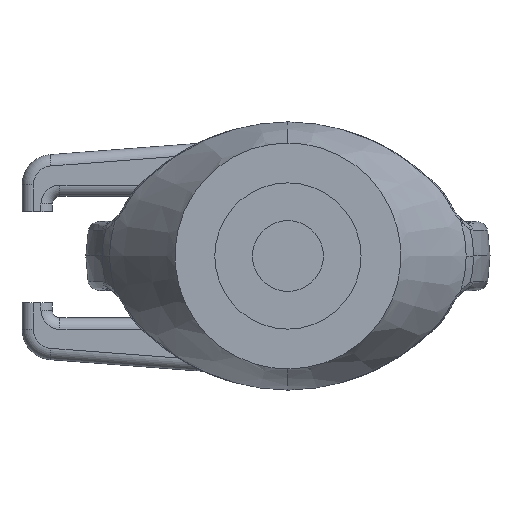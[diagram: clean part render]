
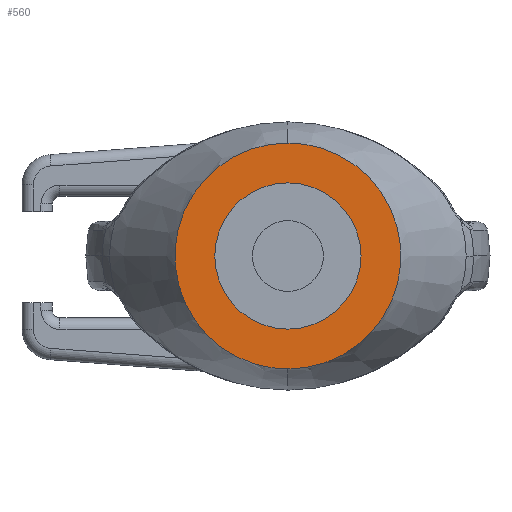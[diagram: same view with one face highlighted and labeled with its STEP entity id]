
A CAD part, front view. The second image highlights one B-rep face of the part: STEP entity #560.
In plain terms, the highlighted planar face has unit normal (0, -1, 0).
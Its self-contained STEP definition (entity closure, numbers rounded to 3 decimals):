
#560=ADVANCED_FACE('',(#1482,#1483),#1484,.F.);
#1482=FACE_OUTER_BOUND('',#2770,.T.);
#1483=FACE_BOUND('',#2771,.T.);
#1484=PLANE('',#2772);
#2770=EDGE_LOOP('',(#9721,#9722));
#2771=EDGE_LOOP('',(#9723,#9724));
#2772=AXIS2_PLACEMENT_3D('',#9725,#9726,#9727);
#9721=ORIENTED_EDGE('',*,*,#12841,.T.);
#9722=ORIENTED_EDGE('',*,*,#12842,.T.);
#9723=ORIENTED_EDGE('',*,*,#12569,.F.);
#9724=ORIENTED_EDGE('',*,*,#12843,.F.);
#9725=CARTESIAN_POINT('',(0.,0.0,0.0));
#9726=DIRECTION('',(0.0,1.0,0.0));
#9727=DIRECTION('',(1.0,0.0,-0.0));
#12569=EDGE_CURVE('',#14082,#14085,#14086,.T.);
#12841=EDGE_CURVE('',#14575,#14576,#14577,.T.);
#12842=EDGE_CURVE('',#14576,#14575,#14578,.T.);
#12843=EDGE_CURVE('',#14085,#14082,#14579,.T.);
#14082=VERTEX_POINT('',#16249);
#14085=VERTEX_POINT('',#16253);
#14086=CIRCLE('',#16254,8.25);
#14575=VERTEX_POINT('',#17627);
#14576=VERTEX_POINT('',#17628);
#14577=B_SPLINE_CURVE_WITH_KNOTS('',3,(#17629,#17630,#17631,#17632,#17633,#17634,#17635,#17636,#17637,#17638,#17639,#17640,#17641,#17642,#17643,#17644,#17645,#17646,#17647,#17648,#17649,#17650,#17651,#17652,#17653,#17654,#17655,#17656,#17657,#17658,#17659,#17660,#17661,#17662,#17663,#17664,#17665,#17666,#17667,#17668,#17669,#17670,#17671,#17672,#17673,#17674,#17675,#17676,#17677),.UNSPECIFIED.,.F.,.F.,(4,3,3,3,3,3,3,3,3,3,3,3,3,3,3,3,4),(0.,0.063,0.125,0.188,0.25,0.313,0.375,0.438,0.5,0.563,0.625,0.688,0.75,0.813,0.875,0.937,1.),.UNSPECIFIED.);
#14578=B_SPLINE_CURVE_WITH_KNOTS('',3,(#17678,#17679,#17680,#17681,#17682,#17683,#17684,#17685,#17686,#17687,#17688,#17689,#17690,#17691,#17692,#17693,#17694,#17695,#17696,#17697,#17698,#17699,#17700,#17701,#17702,#17703,#17704,#17705,#17706,#17707,#17708,#17709,#17710,#17711,#17712,#17713,#17714,#17715,#17716,#17717,#17718,#17719,#17720,#17721,#17722,#17723,#17724,#17725,#17726),.UNSPECIFIED.,.F.,.F.,(4,3,3,3,3,3,3,3,3,3,3,3,3,3,3,3,4),(0.,0.063,0.125,0.188,0.25,0.313,0.375,0.438,0.5,0.563,0.625,0.688,0.75,0.813,0.875,0.937,1.),.UNSPECIFIED.);
#14579=CIRCLE('',#17727,8.25);
#16249=CARTESIAN_POINT('',(0.0,0.0,-8.25));
#16253=CARTESIAN_POINT('',(0.,0.0,8.25));
#16254=AXIS2_PLACEMENT_3D('',#23551,#23552,#23553);
#17627=CARTESIAN_POINT('',(0.,0.,-12.75));
#17628=CARTESIAN_POINT('',(0.,0.,12.75));
#17629=CARTESIAN_POINT('',(0.,0.,-12.75));
#17630=CARTESIAN_POINT('',(0.834,0.,-12.75));
#17631=CARTESIAN_POINT('',(1.669,0.,-12.668));
#17632=CARTESIAN_POINT('',(2.487,0.,-12.505));
#17633=CARTESIAN_POINT('',(3.306,0.,-12.342));
#17634=CARTESIAN_POINT('',(4.108,0.,-12.099));
#17635=CARTESIAN_POINT('',(4.879,0.,-11.779));
#17636=CARTESIAN_POINT('',(5.65,0.,-11.46));
#17637=CARTESIAN_POINT('',(6.39,0.,-11.065));
#17638=CARTESIAN_POINT('',(7.084,0.,-10.601));
#17639=CARTESIAN_POINT('',(7.777,0.,-10.138));
#17640=CARTESIAN_POINT('',(8.426,0.,-9.606));
#17641=CARTESIAN_POINT('',(9.016,0.,-9.016));
#17642=CARTESIAN_POINT('',(9.606,0.,-8.426));
#17643=CARTESIAN_POINT('',(10.138,0.,-7.777));
#17644=CARTESIAN_POINT('',(10.601,0.,-7.084));
#17645=CARTESIAN_POINT('',(11.065,0.,-6.39));
#17646=CARTESIAN_POINT('',(11.46,0.,-5.65));
#17647=CARTESIAN_POINT('',(11.779,0.,-4.879));
#17648=CARTESIAN_POINT('',(12.099,0.,-4.108));
#17649=CARTESIAN_POINT('',(12.342,0.,-3.306));
#17650=CARTESIAN_POINT('',(12.505,0.,-2.487));
#17651=CARTESIAN_POINT('',(12.668,0.,-1.669));
#17652=CARTESIAN_POINT('',(12.75,0.,-0.834));
#17653=CARTESIAN_POINT('',(12.75,0.,0.));
#17654=CARTESIAN_POINT('',(12.75,0.,0.834));
#17655=CARTESIAN_POINT('',(12.668,0.,1.669));
#17656=CARTESIAN_POINT('',(12.505,0.,2.487));
#17657=CARTESIAN_POINT('',(12.342,0.,3.306));
#17658=CARTESIAN_POINT('',(12.099,0.,4.108));
#17659=CARTESIAN_POINT('',(11.779,0.,4.879));
#17660=CARTESIAN_POINT('',(11.46,0.,5.65));
#17661=CARTESIAN_POINT('',(11.065,0.,6.39));
#17662=CARTESIAN_POINT('',(10.601,0.,7.084));
#17663=CARTESIAN_POINT('',(10.138,0.,7.777));
#17664=CARTESIAN_POINT('',(9.606,0.,8.426));
#17665=CARTESIAN_POINT('',(9.016,0.,9.016));
#17666=CARTESIAN_POINT('',(8.426,0.,9.606));
#17667=CARTESIAN_POINT('',(7.777,0.,10.138));
#17668=CARTESIAN_POINT('',(7.084,0.,10.601));
#17669=CARTESIAN_POINT('',(6.39,0.,11.065));
#17670=CARTESIAN_POINT('',(5.65,0.,11.46));
#17671=CARTESIAN_POINT('',(4.879,0.,11.779));
#17672=CARTESIAN_POINT('',(4.108,0.,12.099));
#17673=CARTESIAN_POINT('',(3.306,0.,12.342));
#17674=CARTESIAN_POINT('',(2.487,0.,12.505));
#17675=CARTESIAN_POINT('',(1.669,0.,12.668));
#17676=CARTESIAN_POINT('',(0.834,0.,12.75));
#17677=CARTESIAN_POINT('',(0.,0.,12.75));
#17678=CARTESIAN_POINT('',(0.,0.,12.75));
#17679=CARTESIAN_POINT('',(-0.834,0.,12.75));
#17680=CARTESIAN_POINT('',(-1.669,0.,12.668));
#17681=CARTESIAN_POINT('',(-2.487,0.,12.505));
#17682=CARTESIAN_POINT('',(-3.306,0.,12.342));
#17683=CARTESIAN_POINT('',(-4.108,0.,12.099));
#17684=CARTESIAN_POINT('',(-4.879,0.,11.779));
#17685=CARTESIAN_POINT('',(-5.65,0.,11.46));
#17686=CARTESIAN_POINT('',(-6.39,0.,11.065));
#17687=CARTESIAN_POINT('',(-7.084,0.,10.601));
#17688=CARTESIAN_POINT('',(-7.777,0.,10.138));
#17689=CARTESIAN_POINT('',(-8.426,0.,9.606));
#17690=CARTESIAN_POINT('',(-9.016,0.,9.016));
#17691=CARTESIAN_POINT('',(-9.606,0.,8.426));
#17692=CARTESIAN_POINT('',(-10.138,0.,7.777));
#17693=CARTESIAN_POINT('',(-10.601,0.,7.084));
#17694=CARTESIAN_POINT('',(-11.065,0.,6.39));
#17695=CARTESIAN_POINT('',(-11.46,0.,5.65));
#17696=CARTESIAN_POINT('',(-11.779,0.,4.879));
#17697=CARTESIAN_POINT('',(-12.099,0.,4.108));
#17698=CARTESIAN_POINT('',(-12.342,0.,3.306));
#17699=CARTESIAN_POINT('',(-12.505,0.,2.487));
#17700=CARTESIAN_POINT('',(-12.668,0.,1.669));
#17701=CARTESIAN_POINT('',(-12.75,0.,0.834));
#17702=CARTESIAN_POINT('',(-12.75,0.,0.));
#17703=CARTESIAN_POINT('',(-12.75,0.,-0.834));
#17704=CARTESIAN_POINT('',(-12.668,0.,-1.669));
#17705=CARTESIAN_POINT('',(-12.505,0.,-2.487));
#17706=CARTESIAN_POINT('',(-12.342,0.,-3.306));
#17707=CARTESIAN_POINT('',(-12.099,0.,-4.108));
#17708=CARTESIAN_POINT('',(-11.779,0.,-4.879));
#17709=CARTESIAN_POINT('',(-11.46,0.,-5.65));
#17710=CARTESIAN_POINT('',(-11.065,0.,-6.39));
#17711=CARTESIAN_POINT('',(-10.601,0.,-7.084));
#17712=CARTESIAN_POINT('',(-10.138,0.,-7.777));
#17713=CARTESIAN_POINT('',(-9.606,0.,-8.426));
#17714=CARTESIAN_POINT('',(-9.016,0.,-9.016));
#17715=CARTESIAN_POINT('',(-8.426,0.,-9.606));
#17716=CARTESIAN_POINT('',(-7.777,0.,-10.138));
#17717=CARTESIAN_POINT('',(-7.084,0.,-10.601));
#17718=CARTESIAN_POINT('',(-6.39,0.,-11.065));
#17719=CARTESIAN_POINT('',(-5.65,0.,-11.46));
#17720=CARTESIAN_POINT('',(-4.879,0.,-11.779));
#17721=CARTESIAN_POINT('',(-4.108,0.,-12.099));
#17722=CARTESIAN_POINT('',(-3.306,0.,-12.342));
#17723=CARTESIAN_POINT('',(-2.487,0.,-12.505));
#17724=CARTESIAN_POINT('',(-1.669,0.,-12.668));
#17725=CARTESIAN_POINT('',(-0.834,0.,-12.75));
#17726=CARTESIAN_POINT('',(0.,0.,-12.75));
#17727=AXIS2_PLACEMENT_3D('',#23944,#23945,#23946);
#23551=CARTESIAN_POINT('',(0.0,0.0,0.0));
#23552=DIRECTION('',(0.0,-1.0,0.0));
#23553=DIRECTION('',(0.0,0.0,-1.0));
#23944=CARTESIAN_POINT('',(0.0,0.0,0.0));
#23945=DIRECTION('',(0.0,-1.0,0.0));
#23946=DIRECTION('',(0.0,0.0,-1.0));
